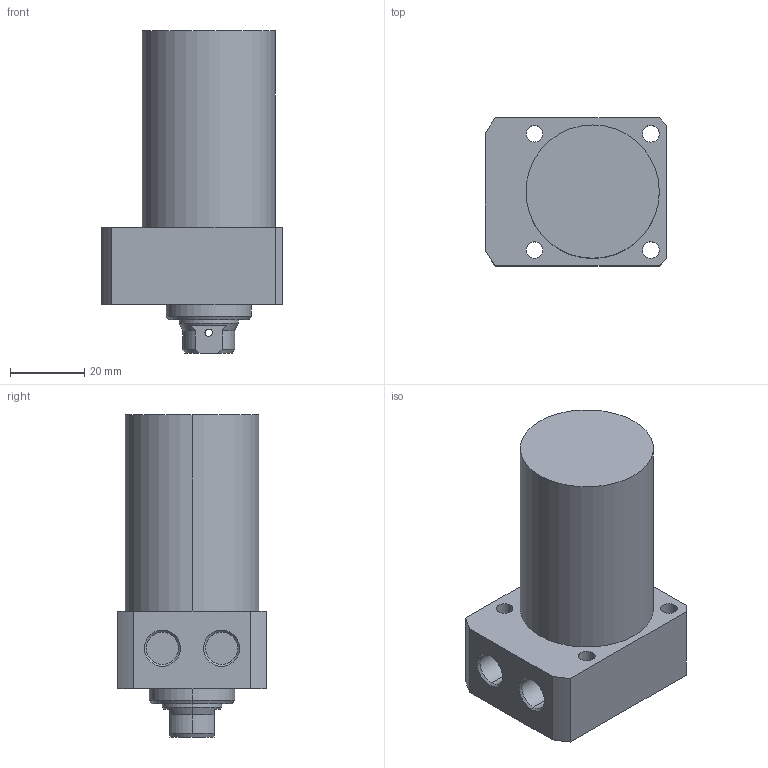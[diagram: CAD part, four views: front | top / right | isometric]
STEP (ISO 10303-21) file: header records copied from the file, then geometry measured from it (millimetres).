
FILE_DESCRIPTION (( 'STEP AP203' ), '1' );
FILE_NAME ('CLLR-036CB-045.STEP', '2019-12-20T00:25:21', ( '' ), ( '' ), 'SwSTEP 2.0', 'SolidWorks 2015', '' );
FILE_SCHEMA (( 'CONFIG_CONTROL_DESIGN' ));
Length unit declared in the file: millimetre
Products named in the file (1): CLLR-036CB-045
Bounding box: 49 x 40 x 87 mm (x, y, z)
Volume: 94628.8 mm3; surface area: 16106.5 mm2
Topology: 1 solids, 1 shells, 67 faces, 161 edges, 102 vertices
Faces by surface type: cylinder 33, plane 19, cone 15
Entity records: 2131 total; most frequent: CARTESIAN_POINT 429, DIRECTION 360, ORIENTED_EDGE 318, EDGE_CURVE 159, AXIS2_PLACEMENT_3D 145, VERTEX_POINT 102, EDGE_LOOP 87, CIRCLE 77
